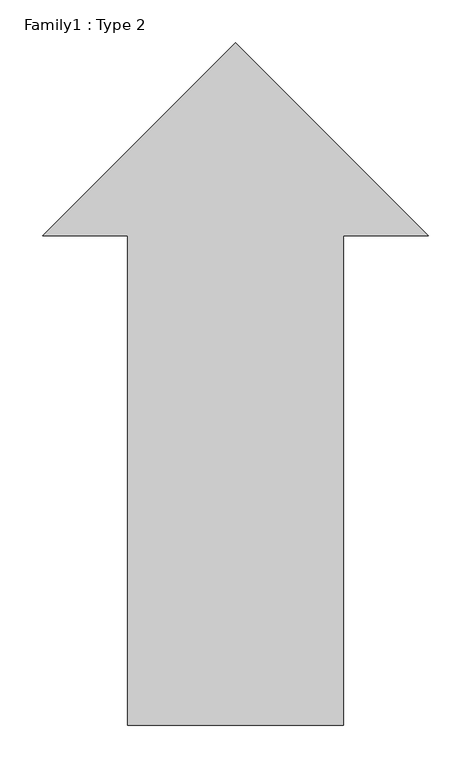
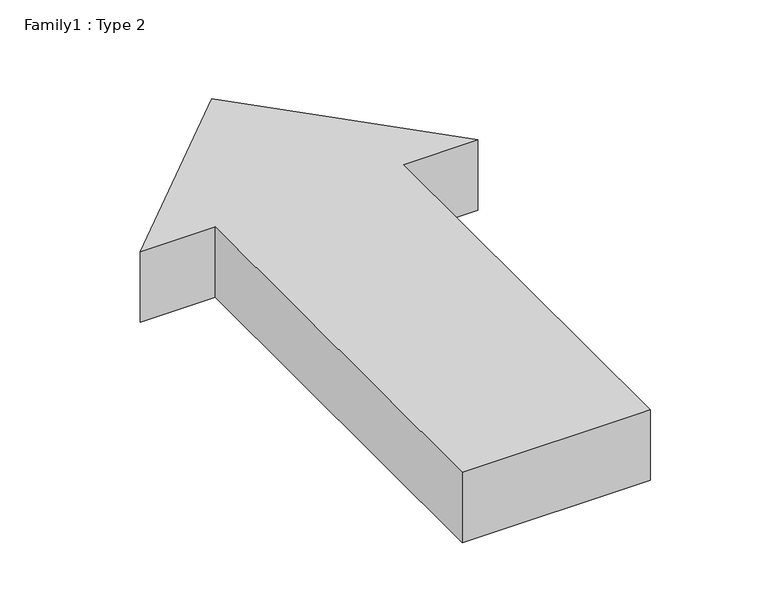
"""IFC4 building model written with IfcOpenShell, lengths in millimetres: furniture geometry, Family1 : Type 2."""

from ifc_helpers import new_model, si_unit, origin, origin_with_axes, place, context, project, spatial, polyline, outline, extrude, source, transform, mapped, element, save


def family1_type_2_3290de98(model_context):
    return source(origin(), model_context, "Body", "SweptSolid", [
        extrude(outline(polyline([(226.27417, -226.27417), (126.27417, -226.27417), (126.27417, -800.0), (-126.27417, -800.0), (-126.27417, -226.27417), (-226.27417, -226.27417), (0.0, 0.0), (226.27417, -226.27417)])), origin_with_axes(), (0.0, 0.0, 1.0), 100.0),
    ])


if __name__ == "__main__":
    model = new_model("IFC4")
    model_context = context("Model", 3, world=origin())
    ifc_project = project(units=[si_unit("LENGTHUNIT", "METRE", prefix="MILLI")], contexts=[model_context])
    site = spatial("IfcSite", under=ifc_project)
    building = spatial("IfcBuilding", under=site)
    placement = place(None, origin())
    family1_type_2_shape = family1_type_2_3290de98(model_context)
    element("IfcFurniture", 1, ObjectType="Family1 : Type 2", at=placement, inside=building, context=model_context, shape_type="MappedRepresentation", body=[
        mapped(family1_type_2_shape, transform((0.0, 0.0, 0.0), x_axis=(1.0, 0.0, 0.0), y_axis=(0.0, 1.0, 0.0), z_axis=(0.0, 0.0, 1.0))),
    ])
    save(model, "model.ifc")
